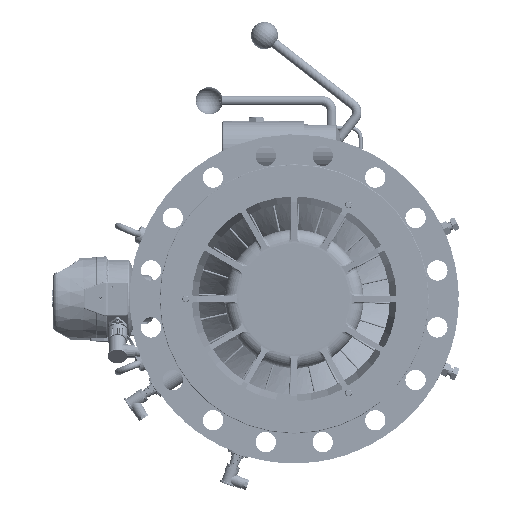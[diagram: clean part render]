
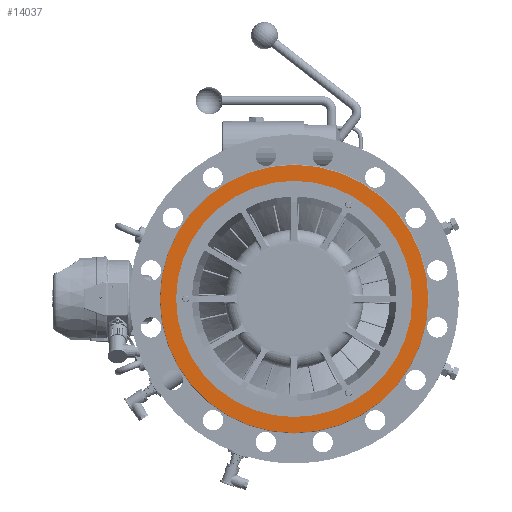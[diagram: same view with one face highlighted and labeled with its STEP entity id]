
A CAD part, left-side view. The second image highlights one B-rep face of the part: STEP entity #14037.
In plain terms, the highlighted planar face has unit normal (-1, 0, 0).
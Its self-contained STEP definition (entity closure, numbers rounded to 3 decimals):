
#13162=CARTESIAN_POINT('',(-18.,0.,0.));
#13163=DIRECTION('',(1.,0.,0.));
#13164=DIRECTION('',(0.,1.,0.));
#13165=AXIS2_PLACEMENT_3D('',#13162,#13163,#13164);
#13167=CARTESIAN_POINT('',(-18.,0.,0.));
#13168=DIRECTION('',(-1.,0.,0.));
#13169=DIRECTION('',(0.,1.,0.));
#13170=AXIS2_PLACEMENT_3D('',#13167,#13168,#13169);
#13172=CARTESIAN_POINT('',(-18.,0.,0.));
#13173=DIRECTION('',(1.,0.,0.));
#13174=DIRECTION('',(0.,1.,0.));
#13175=AXIS2_PLACEMENT_3D('',#13172,#13173,#13174);
#13182=CARTESIAN_POINT('',(-18.,0.,0.));
#13183=DIRECTION('',(1.,0.,0.));
#13184=DIRECTION('',(0.,-1.,0.));
#13185=AXIS2_PLACEMENT_3D('',#13182,#13183,#13184);
#13399=CARTESIAN_POINT('',(-18.,197.5,0.));
#13401=VERTEX_POINT('',#13399);
#13403=CARTESIAN_POINT('',(-18.,-197.5,0.));
#13405=VERTEX_POINT('',#13403);
#13406=CARTESIAN_POINT('',(-18.,173.97,0.));
#13407=CARTESIAN_POINT('',(-18.,-173.97,0.));
#13408=VERTEX_POINT('',#13406);
#13409=VERTEX_POINT('',#13407);
#14022=CARTESIAN_POINT('',(-18.,0.,0.));
#14023=DIRECTION('',(-1.,0.,0.));
#14024=DIRECTION('',(0.,-1.,0.));
#14025=AXIS2_PLACEMENT_3D('',#14022,#14023,#14024);
#14026=PLANE('1107296346',#14025);
#14027=ORIENTED_EDGE('1107296404',*,*,#14017,.T.);
#14028=ORIENTED_EDGE('1107296380',*,*,#14001,.F.);
#14029=EDGE_LOOP('1107296346',(#14027,#14028));
#14030=FACE_OUTER_BOUND('1107296346',#14029,.F.);
#14032=ORIENTED_EDGE('1107296407',*,*,#14031,.F.);
#14034=ORIENTED_EDGE('1107296408',*,*,#14033,.F.);
#14035=EDGE_LOOP('1107296346',(#14032,#14034));
#14036=FACE_BOUND('1107296346',#14035,.F.);
#13166=CIRCLE('1107296404',#13165,197.5);
#13171=CIRCLE('1107296380',#13170,197.5);
#13176=CIRCLE('1107296407',#13175,173.97);
#13186=CIRCLE('1107296408',#13185,173.97);
#14001=EDGE_CURVE('1107296380',#13401,#13405,#13171,.T.);
#14017=EDGE_CURVE('1107296404',#13401,#13405,#13166,.T.);
#14031=EDGE_CURVE('1107296407',#13408,#13409,#13176,.T.);
#14033=EDGE_CURVE('1107296408',#13409,#13408,#13186,.T.);
#14037=ADVANCED_FACE('1107296346',(#14030,#14036),#14026,.T.);
